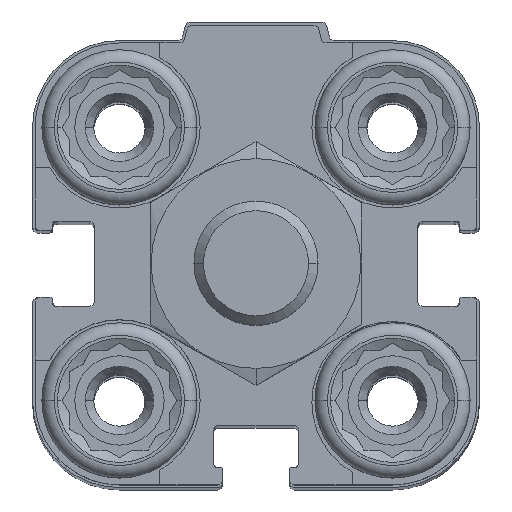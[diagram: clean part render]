
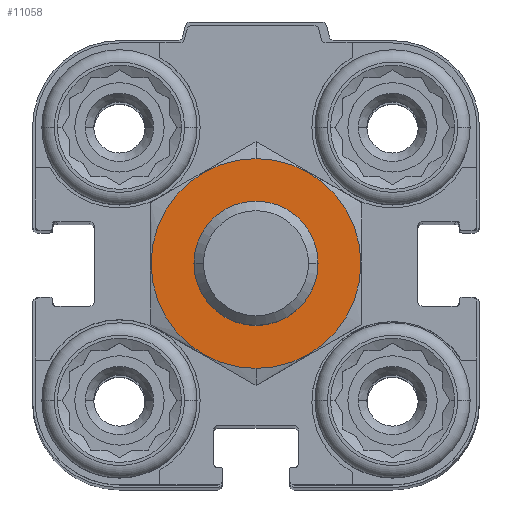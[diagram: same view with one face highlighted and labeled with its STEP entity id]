
A CAD part, top view. The second image highlights one B-rep face of the part: STEP entity #11058.
In plain terms, the highlighted planar face has unit normal (0, 0, 1).
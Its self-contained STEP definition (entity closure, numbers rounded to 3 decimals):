
#59 = DIRECTION ( 'NONE',  ( 0., -1., 0. ) ) ;
#947 = ORIENTED_EDGE ( 'NONE', *, *, #1864, .F. ) ;
#1222 = CIRCLE ( 'NONE', #17982, 5. ) ;
#1250 = CIRCLE ( 'NONE', #16703, 8.45 ) ;
#1511 = CARTESIAN_POINT ( 'NONE',  ( 0., 0., 13.5 ) ) ;
#1836 = DIRECTION ( 'NONE',  ( 0., -1., 0. ) ) ;
#1864 = EDGE_CURVE ( 'NONE', #9676, #9905, #1250, .T. ) ;
#2585 = DIRECTION ( 'NONE',  ( 0., -1., 0. ) ) ;
#3390 = EDGE_LOOP ( 'NONE', ( #947, #10347 ) ) ;
#4194 = VERTEX_POINT ( 'NONE', #15372 ) ;
#4724 = EDGE_CURVE ( 'NONE', #9905, #9676, #12916, .T. ) ;
#5922 = EDGE_CURVE ( 'NONE', #4194, #17736, #18690, .T. ) ;
#6117 = ORIENTED_EDGE ( 'NONE', *, *, #16367, .T. ) ;
#6885 = PLANE ( 'NONE',  #11168 ) ;
#7308 = CARTESIAN_POINT ( 'NONE',  ( 0., -8.45, 13.5 ) ) ;
#7373 = DIRECTION ( 'NONE',  ( 0., -1., 0. ) ) ;
#7534 = DIRECTION ( 'NONE',  ( 0., -1., 0. ) ) ;
#8175 = ORIENTED_EDGE ( 'NONE', *, *, #5922, .T. ) ;
#9676 = VERTEX_POINT ( 'NONE', #7308 ) ;
#9905 = VERTEX_POINT ( 'NONE', #19224 ) ;
#9963 = FACE_BOUND ( 'NONE', #19896, .T. ) ;
#10347 = ORIENTED_EDGE ( 'NONE', *, *, #4724, .F. ) ;
#11058 = ADVANCED_FACE ( 'NONE', ( #16335, #9963 ), #6885, .F. ) ;
#11129 = AXIS2_PLACEMENT_3D ( 'NONE', #13741, #15083, #7373 ) ;
#11168 = AXIS2_PLACEMENT_3D ( 'NONE', #17995, #17682, #1836 ) ;
#11285 = DIRECTION ( 'NONE',  ( 0., 0., -1. ) ) ;
#12358 = CARTESIAN_POINT ( 'NONE',  ( 0., 0., 13.5 ) ) ;
#12901 = DIRECTION ( 'NONE',  ( 0., 0., -1. ) ) ;
#12916 = CIRCLE ( 'NONE', #15563, 8.45 ) ;
#13686 = DIRECTION ( 'NONE',  ( 0., 0., -1. ) ) ;
#13741 = CARTESIAN_POINT ( 'NONE',  ( 0., 0., 13.5 ) ) ;
#15083 = DIRECTION ( 'NONE',  ( 0., 0., -1. ) ) ;
#15372 = CARTESIAN_POINT ( 'NONE',  ( 0., -5., 13.5 ) ) ;
#15563 = AXIS2_PLACEMENT_3D ( 'NONE', #12358, #11285, #7534 ) ;
#16335 = FACE_OUTER_BOUND ( 'NONE', #3390, .T. ) ;
#16367 = EDGE_CURVE ( 'NONE', #17736, #4194, #1222, .T. ) ;
#16703 = AXIS2_PLACEMENT_3D ( 'NONE', #18639, #13686, #2585 ) ;
#16724 = CARTESIAN_POINT ( 'NONE',  ( 0., 5., 13.5 ) ) ;
#17682 = DIRECTION ( 'NONE',  ( 0., 0., -1. ) ) ;
#17736 = VERTEX_POINT ( 'NONE', #16724 ) ;
#17982 = AXIS2_PLACEMENT_3D ( 'NONE', #1511, #12901, #59 ) ;
#17995 = CARTESIAN_POINT ( 'NONE',  ( 0., 0., 13.5 ) ) ;
#18639 = CARTESIAN_POINT ( 'NONE',  ( 0., 0., 13.5 ) ) ;
#18690 = CIRCLE ( 'NONE', #11129, 5. ) ;
#19224 = CARTESIAN_POINT ( 'NONE',  ( 0., 8.45, 13.5 ) ) ;
#19896 = EDGE_LOOP ( 'NONE', ( #6117, #8175 ) ) ;
